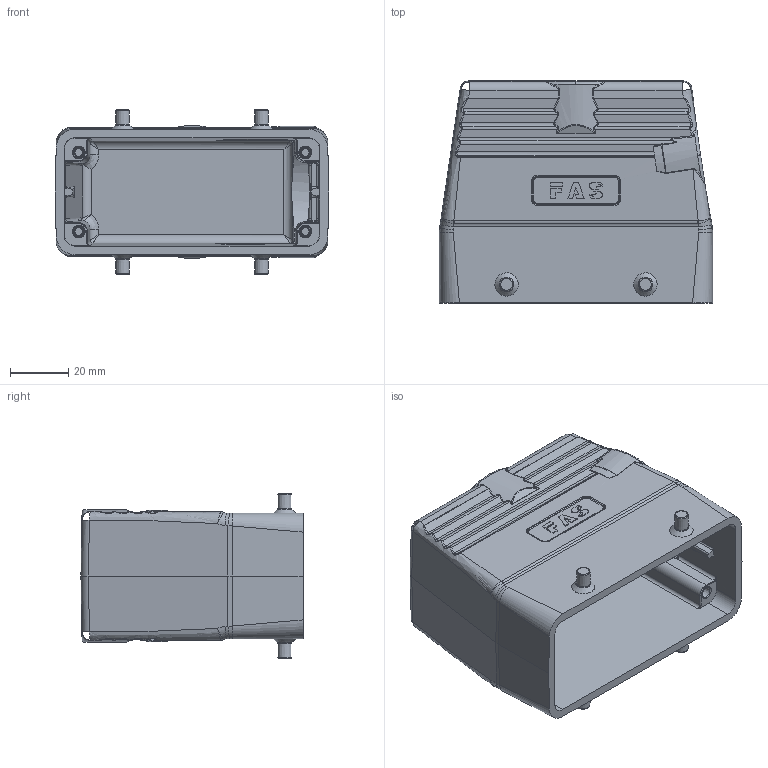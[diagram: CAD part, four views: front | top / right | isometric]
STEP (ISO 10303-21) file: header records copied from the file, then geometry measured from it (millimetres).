
FILE_DESCRIPTION (( 'STEP AP203' ), '1' );
FILE_NAME ('H16B-TSH-M40.STEP', '2023-06-09T04:44:29', ( '' ), ( '' ), 'SwSTEP 2.0', 'SolidWorks 2016', '' );
FILE_SCHEMA (( 'CONFIG_CONTROL_DESIGN' ));
Length unit declared in the file: millimetre
Products named in the file (1): H16B-TSH-M40
Bounding box: 93.5 x 76 x 56.4 mm (x, y, z)
Surface area: 41352.4 mm2 (no closed solid volume)
Topology: 0 solids, 1 shells, 602 faces, 1557 edges, 978 vertices
Faces by surface type: bspline 226, plane 181, cylinder 164, cone 31
Full cylindrical faces by diameter (mm): 40 x1
Entity records: 33387 total; most frequent: CARTESIAN_POINT 21581, ORIENTED_EDGE 3032, EDGE_CURVE 1516, DIRECTION 1476, VERTEX_POINT 968, B_SPLINE_CURVE_WITH_KNOTS 828, EDGE_LOOP 664, FACE_OUTER_BOUND 615
